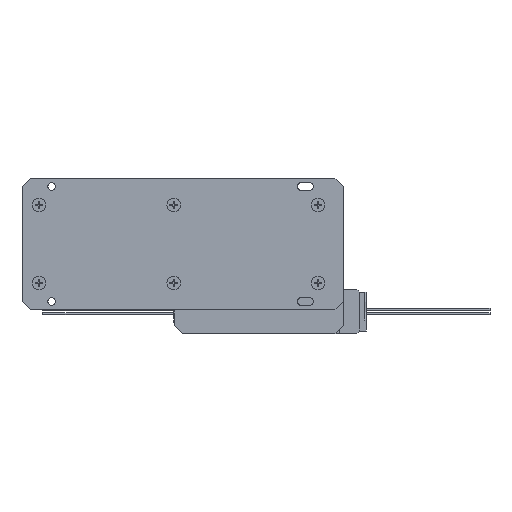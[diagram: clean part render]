
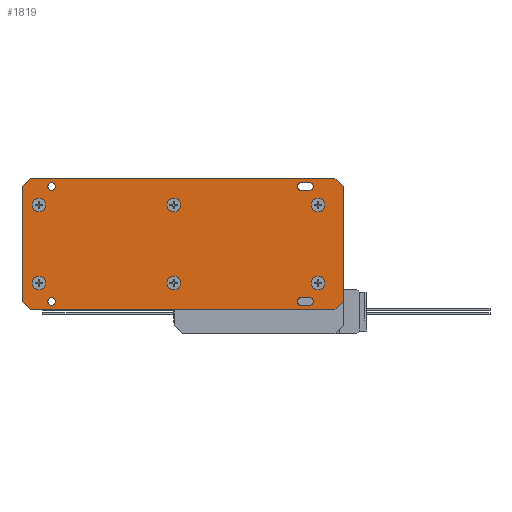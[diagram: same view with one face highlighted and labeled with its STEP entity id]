
A CAD part, front view. The second image highlights one B-rep face of the part: STEP entity #1819.
In plain terms, the highlighted planar face has unit normal (0, -1, 0).
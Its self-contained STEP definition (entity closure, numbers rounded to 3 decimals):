
#1819=ADVANCED_FACE('',(#4018,#4019,#4020,#4021,#4022,#4023,#4024,#4025,#4026,#4027,#4028),#4029,.F.);
#4018=FACE_OUTER_BOUND('',#8326,.T.);
#4019=FACE_BOUND('',#8327,.T.);
#4020=FACE_BOUND('',#8328,.T.);
#4021=FACE_BOUND('',#8329,.T.);
#4022=FACE_BOUND('',#8330,.T.);
#4023=FACE_BOUND('',#8331,.T.);
#4024=FACE_BOUND('',#8332,.T.);
#4025=FACE_BOUND('',#8333,.T.);
#4026=FACE_BOUND('',#8334,.T.);
#4027=FACE_BOUND('',#8335,.T.);
#4028=FACE_BOUND('',#8336,.T.);
#4029=PLANE('',#8337);
#8326=EDGE_LOOP('',(#14051,#14052,#14053,#14054,#14055,#14056,#14057,#14058));
#8327=EDGE_LOOP('',(#14059,#14060,#14061,#14062));
#8328=EDGE_LOOP('',(#14063,#14064,#14065,#14066));
#8329=EDGE_LOOP('',(#14067));
#8330=EDGE_LOOP('',(#14068));
#8331=EDGE_LOOP('',(#14069));
#8332=EDGE_LOOP('',(#14070));
#8333=EDGE_LOOP('',(#14071));
#8334=EDGE_LOOP('',(#14072));
#8335=EDGE_LOOP('',(#14073));
#8336=EDGE_LOOP('',(#14074));
#8337=AXIS2_PLACEMENT_3D('',#14075,#14076,#14077);
#14051=ORIENTED_EDGE('',*,*,#30639,.F.);
#14052=ORIENTED_EDGE('',*,*,#30476,.F.);
#14053=ORIENTED_EDGE('',*,*,#30649,.F.);
#14054=ORIENTED_EDGE('',*,*,#30391,.F.);
#14055=ORIENTED_EDGE('',*,*,#30647,.F.);
#14056=ORIENTED_EDGE('',*,*,#30644,.F.);
#14057=ORIENTED_EDGE('',*,*,#30419,.F.);
#14058=ORIENTED_EDGE('',*,*,#30642,.F.);
#14059=ORIENTED_EDGE('',*,*,#30651,.T.);
#14060=ORIENTED_EDGE('',*,*,#30666,.T.);
#14061=ORIENTED_EDGE('',*,*,#30658,.T.);
#14062=ORIENTED_EDGE('',*,*,#30655,.T.);
#14063=ORIENTED_EDGE('',*,*,#30487,.T.);
#14064=ORIENTED_EDGE('',*,*,#30413,.T.);
#14065=ORIENTED_EDGE('',*,*,#30664,.T.);
#14066=ORIENTED_EDGE('',*,*,#30661,.T.);
#14067=ORIENTED_EDGE('',*,*,#30668,.T.);
#14068=ORIENTED_EDGE('',*,*,#30423,.T.);
#14069=ORIENTED_EDGE('',*,*,#30408,.F.);
#14070=ORIENTED_EDGE('',*,*,#30670,.F.);
#14071=ORIENTED_EDGE('',*,*,#30671,.F.);
#14072=ORIENTED_EDGE('',*,*,#30672,.F.);
#14073=ORIENTED_EDGE('',*,*,#30673,.F.);
#14074=ORIENTED_EDGE('',*,*,#30674,.F.);
#14075=CARTESIAN_POINT('',(0.,0.0,0.0));
#14076=DIRECTION('',(-0.0,1.0,0.0));
#14077=DIRECTION('',(1.0,0.0,0.0));
#30391=EDGE_CURVE('',#35926,#35927,#35928,.T.);
#30408=EDGE_CURVE('',#35960,#35960,#35961,.T.);
#30413=EDGE_CURVE('',#35970,#35971,#35972,.T.);
#30419=EDGE_CURVE('',#35981,#35982,#35983,.T.);
#30423=EDGE_CURVE('',#35989,#35989,#35990,.T.);
#30476=EDGE_CURVE('',#36090,#36091,#36092,.T.);
#30487=EDGE_CURVE('',#36111,#35970,#36112,.T.);
#30639=EDGE_CURVE('',#36091,#36351,#36352,.T.);
#30642=EDGE_CURVE('',#36351,#35981,#36356,.T.);
#30644=EDGE_CURVE('',#35982,#36358,#36359,.T.);
#30647=EDGE_CURVE('',#36358,#35926,#36363,.T.);
#30649=EDGE_CURVE('',#35927,#36090,#36365,.T.);
#30651=EDGE_CURVE('',#36367,#36368,#36369,.T.);
#30655=EDGE_CURVE('',#36375,#36367,#36376,.T.);
#30658=EDGE_CURVE('',#36380,#36375,#36381,.T.);
#30661=EDGE_CURVE('',#36385,#36111,#36386,.T.);
#30664=EDGE_CURVE('',#35971,#36385,#36390,.T.);
#30666=EDGE_CURVE('',#36368,#36380,#36392,.T.);
#30668=EDGE_CURVE('',#36394,#36394,#36395,.T.);
#30670=EDGE_CURVE('',#36398,#36398,#36399,.T.);
#30671=EDGE_CURVE('',#36400,#36400,#36401,.T.);
#30672=EDGE_CURVE('',#36402,#36402,#36403,.T.);
#30673=EDGE_CURVE('',#36404,#36404,#36405,.T.);
#30674=EDGE_CURVE('',#36406,#36406,#36407,.T.);
#35926=VERTEX_POINT('',#45134);
#35927=VERTEX_POINT('',#45135);
#35928=LINE('',#45136,#45137);
#35960=VERTEX_POINT('',#45180);
#35961=CIRCLE('',#45181,4.0);
#35970=VERTEX_POINT('',#45194);
#35971=VERTEX_POINT('',#45195);
#35972=CIRCLE('',#45196,2.25);
#35981=VERTEX_POINT('',#45209);
#35982=VERTEX_POINT('',#45210);
#35983=LINE('',#45211,#45212);
#35989=VERTEX_POINT('',#45221);
#35990=CIRCLE('',#45222,2.25);
#36090=VERTEX_POINT('',#45366);
#36091=VERTEX_POINT('',#45367);
#36092=LINE('',#45368,#45369);
#36111=VERTEX_POINT('',#45396);
#36112=LINE('',#45397,#45398);
#36351=VERTEX_POINT('',#45764);
#36352=LINE('',#45765,#45766);
#36356=LINE('',#45772,#45773);
#36358=VERTEX_POINT('',#45776);
#36359=LINE('',#45777,#45778);
#36363=LINE('',#45784,#45785);
#36365=LINE('',#45788,#45789);
#36367=VERTEX_POINT('',#45792);
#36368=VERTEX_POINT('',#45793);
#36369=LINE('',#45794,#45795);
#36375=VERTEX_POINT('',#45804);
#36376=CIRCLE('',#45805,2.25);
#36380=VERTEX_POINT('',#45810);
#36381=LINE('',#45811,#45812);
#36385=VERTEX_POINT('',#45818);
#36386=CIRCLE('',#45819,2.25);
#36390=LINE('',#45824,#45825);
#36392=CIRCLE('',#45828,2.25);
#36394=VERTEX_POINT('',#45830);
#36395=CIRCLE('',#45831,2.25);
#36398=VERTEX_POINT('',#45834);
#36399=CIRCLE('',#45835,4.0);
#36400=VERTEX_POINT('',#45836);
#36401=CIRCLE('',#45837,4.0);
#36402=VERTEX_POINT('',#45838);
#36403=CIRCLE('',#45839,4.0);
#36404=VERTEX_POINT('',#45840);
#36405=CIRCLE('',#45841,4.0);
#36406=VERTEX_POINT('',#45842);
#36407=CIRCLE('',#45843,4.0);
#45134=CARTESIAN_POINT('',(157.8,0.0,34.0));
#45135=CARTESIAN_POINT('',(157.8,0.0,-34.0));
#45136=CARTESIAN_POINT('',(157.8,0.0,34.0));
#45137=VECTOR('',#59703,1.0);
#45180=CARTESIAN_POINT('',(-22.2,0.0,19.0));
#45181=AXIS2_PLACEMENT_3D('',#59730,#59731,#59732);
#45194=CARTESIAN_POINT('',(132.8,0.0,31.75));
#45195=CARTESIAN_POINT('',(132.8,0.0,36.25));
#45196=AXIS2_PLACEMENT_3D('',#59737,#59738,#59739);
#45209=CARTESIAN_POINT('',(-32.2,0.0,34.0));
#45210=CARTESIAN_POINT('',(-27.2,0.0,39.0));
#45211=CARTESIAN_POINT('',(-32.2,0.0,34.0));
#45212=VECTOR('',#59747,1.0);
#45221=CARTESIAN_POINT('',(-12.45,0.0,34.0));
#45222=AXIS2_PLACEMENT_3D('',#59751,#59752,#59753);
#45366=CARTESIAN_POINT('',(152.8,0.0,-39.0));
#45367=CARTESIAN_POINT('',(-27.2,0.0,-39.0));
#45368=CARTESIAN_POINT('',(152.8,0.0,-39.0));
#45369=VECTOR('',#59822,1.0);
#45396=CARTESIAN_POINT('',(137.8,0.0,31.75));
#45397=CARTESIAN_POINT('',(137.8,0.0,31.75));
#45398=VECTOR('',#59837,1.0);
#45764=CARTESIAN_POINT('',(-32.2,0.0,-34.0));
#45765=CARTESIAN_POINT('',(-27.2,0.0,-39.0));
#45766=VECTOR('',#60037,1.0);
#45772=CARTESIAN_POINT('',(-32.2,0.0,-34.0));
#45773=VECTOR('',#60040,1.0);
#45776=CARTESIAN_POINT('',(152.8,0.0,39.0));
#45777=CARTESIAN_POINT('',(-27.2,0.0,39.0));
#45778=VECTOR('',#60042,1.0);
#45784=CARTESIAN_POINT('',(152.8,0.0,39.0));
#45785=VECTOR('',#60045,1.0);
#45788=CARTESIAN_POINT('',(157.8,0.0,-34.0));
#45789=VECTOR('',#60047,1.0);
#45792=CARTESIAN_POINT('',(137.8,0.0,-36.25));
#45793=CARTESIAN_POINT('',(132.8,0.0,-36.25));
#45794=CARTESIAN_POINT('',(137.8,0.0,-36.25));
#45795=VECTOR('',#60049,1.0);
#45804=CARTESIAN_POINT('',(137.8,0.0,-31.75));
#45805=AXIS2_PLACEMENT_3D('',#60053,#60054,#60055);
#45810=CARTESIAN_POINT('',(132.8,0.0,-31.75));
#45811=CARTESIAN_POINT('',(132.8,0.0,-31.75));
#45812=VECTOR('',#60060,1.0);
#45818=CARTESIAN_POINT('',(137.8,0.0,36.25));
#45819=AXIS2_PLACEMENT_3D('',#60063,#60064,#60065);
#45824=CARTESIAN_POINT('',(132.8,0.0,36.25));
#45825=VECTOR('',#60070,1.0);
#45828=AXIS2_PLACEMENT_3D('',#60072,#60073,#60074);
#45830=CARTESIAN_POINT('',(-12.45,0.0,-34.0));
#45831=AXIS2_PLACEMENT_3D('',#60078,#60079,#60080);
#45834=CARTESIAN_POINT('',(57.5,0.0,19.0));
#45835=AXIS2_PLACEMENT_3D('',#60084,#60085,#60086);
#45836=CARTESIAN_POINT('',(-22.2,0.0,-27.0));
#45837=AXIS2_PLACEMENT_3D('',#60087,#60088,#60089);
#45838=CARTESIAN_POINT('',(57.5,0.0,-27.0));
#45839=AXIS2_PLACEMENT_3D('',#60090,#60091,#60092);
#45840=CARTESIAN_POINT('',(142.8,0.0,19.0));
#45841=AXIS2_PLACEMENT_3D('',#60093,#60094,#60095);
#45842=CARTESIAN_POINT('',(142.8,0.0,-27.0));
#45843=AXIS2_PLACEMENT_3D('',#60096,#60097,#60098);
#59703=DIRECTION('',(0.0,0.0,-1.0));
#59730=CARTESIAN_POINT('',(-22.2,0.0,23.0));
#59731=DIRECTION('',(0.0,-1.0,0.0));
#59732=DIRECTION('',(0.0,0.0,-1.0));
#59737=CARTESIAN_POINT('',(132.8,0.0,34.0));
#59738=DIRECTION('',(-0.0,1.0,0.0));
#59739=DIRECTION('',(1.0,0.0,0.0));
#59747=DIRECTION('',(0.707,0.0,0.707));
#59751=CARTESIAN_POINT('',(-14.7,0.0,34.0));
#59752=DIRECTION('',(-0.0,1.0,0.0));
#59753=DIRECTION('',(1.0,0.0,0.0));
#59822=DIRECTION('',(-1.0,0.0,0.0));
#59837=DIRECTION('',(-1.0,0.0,0.0));
#60037=DIRECTION('',(-0.707,0.0,0.707));
#60040=DIRECTION('',(0.0,0.0,1.0));
#60042=DIRECTION('',(1.0,0.0,0.0));
#60045=DIRECTION('',(0.707,0.0,-0.707));
#60047=DIRECTION('',(-0.707,0.0,-0.707));
#60049=DIRECTION('',(-1.0,0.0,0.0));
#60053=CARTESIAN_POINT('',(137.8,0.0,-34.0));
#60054=DIRECTION('',(-0.0,1.0,0.0));
#60055=DIRECTION('',(1.0,0.0,0.0));
#60060=DIRECTION('',(1.0,0.0,0.0));
#60063=CARTESIAN_POINT('',(137.8,0.0,34.0));
#60064=DIRECTION('',(-0.0,1.0,0.0));
#60065=DIRECTION('',(1.0,0.0,0.0));
#60070=DIRECTION('',(1.0,0.0,0.0));
#60072=CARTESIAN_POINT('',(132.8,0.0,-34.0));
#60073=DIRECTION('',(-0.0,1.0,0.0));
#60074=DIRECTION('',(1.0,0.0,0.0));
#60078=CARTESIAN_POINT('',(-14.7,0.0,-34.0));
#60079=DIRECTION('',(-0.0,1.0,0.0));
#60080=DIRECTION('',(1.0,0.0,0.0));
#60084=CARTESIAN_POINT('',(57.5,0.0,23.0));
#60085=DIRECTION('',(0.0,-1.0,0.0));
#60086=DIRECTION('',(0.0,0.0,-1.0));
#60087=CARTESIAN_POINT('',(-22.2,0.0,-23.0));
#60088=DIRECTION('',(0.0,-1.0,0.0));
#60089=DIRECTION('',(0.0,0.0,-1.0));
#60090=CARTESIAN_POINT('',(57.5,0.0,-23.0));
#60091=DIRECTION('',(0.0,-1.0,0.0));
#60092=DIRECTION('',(0.0,0.0,-1.0));
#60093=CARTESIAN_POINT('',(142.8,0.0,23.0));
#60094=DIRECTION('',(0.0,-1.0,0.0));
#60095=DIRECTION('',(0.0,0.0,-1.0));
#60096=CARTESIAN_POINT('',(142.8,0.0,-23.0));
#60097=DIRECTION('',(0.0,-1.0,0.0));
#60098=DIRECTION('',(0.0,0.0,-1.0));
